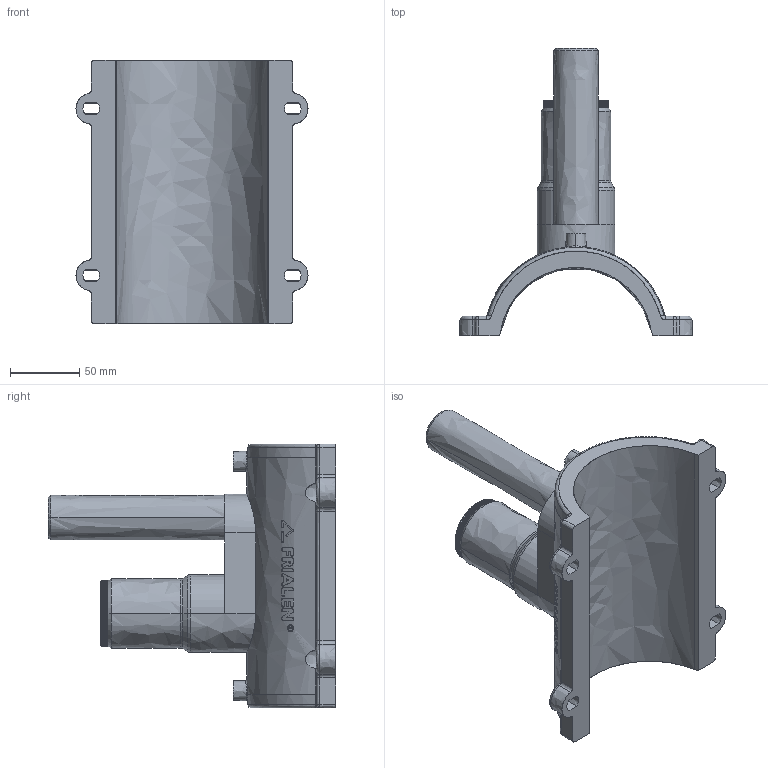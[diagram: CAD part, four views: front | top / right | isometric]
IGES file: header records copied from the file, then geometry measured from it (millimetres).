
Start section:  PTC IGES file: dap_d110_32_01.igs
Global section: file name: dap_d110_32_01.igs; native system: Pro/ENGINEER by Parametric Technology Corporation; preprocessor: 2011490; author: mtunjic; organization: Unknown; date: 20130909.083303; units: millimetre
Bounding box: 167 x 207 x 190 mm (x, y, z)
Surface area: 130324.1 mm2 (no closed solid volume)
Topology: 0 solids, 0 shells, 788 faces, 4472 edges, 4472 vertices
Faces by surface type: bspline 788
